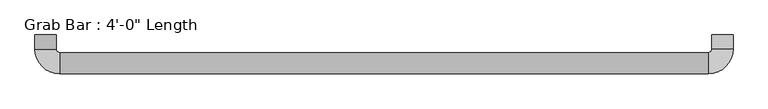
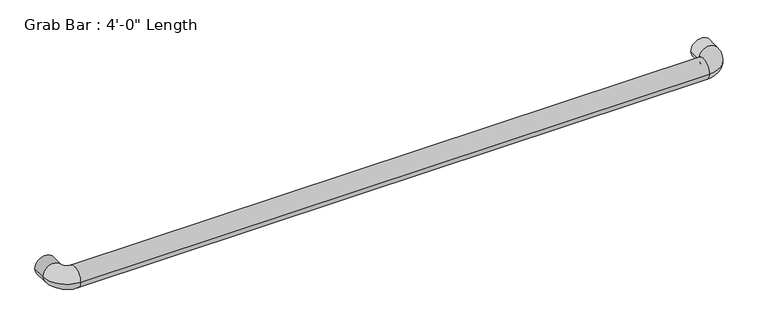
"""IFC4 building model written with IfcOpenShell, lengths in millimetres: proxy geometry."""

from ifc_helpers import new_model, si_unit, point, frame, origin, place, context, project, spatial, circle_curve, ellipse_curve, trimmed, source, transform, mapped, element, save
from ifc_brep_helpers import plane_surface, cylinder_surface, revolved_surface, advanced_brep


def proxy_3a9288d3(model_context):
    return source(origin(), model_context, "Body", "AdvancedBrep", [
        advanced_brep(
        [(-590.55, -176.2125, 914.4), (-628.65, -176.2125, 914.4), (-628.65, -201.6125, 914.4), (-590.55, -201.6125, 914.4), (-584.2, -246.0625, 914.4), (-584.2, -207.9625, 914.4), (584.2, -246.0625, 914.4), (584.2, -207.9625, 914.4), (628.65, -201.6125, 914.4), (590.55, -201.6125, 914.4), (590.55, -176.2125, 914.4), (628.65, -176.2125, 914.4)],
        [
            (0, 1, circle_curve(frame((-609.6, -176.2125, 914.4), z_axis=(0.0, 1.0, 0.0), x_axis=(-1.0, 0.0, 0.0)), 19.05)),
            (1, 0, circle_curve(frame((-609.6, -176.2125, 914.4), z_axis=(0.0, 1.0, 0.0), x_axis=(-1.0, 0.0, 0.0)), 19.05)),
            (1, 2),
            (2, 3, circle_curve(frame((-609.6, -201.6125, 914.4), z_axis=(0.0, 1.0, 0.0), x_axis=(-1.0, 0.0, 0.0)), 19.05)),
            (3, 0),
            (3, 2, circle_curve(frame((-609.6, -201.6125, 914.4), z_axis=(0.0, 1.0, 0.0), x_axis=(-1.0, 0.0, 0.0)), 19.05)),
            (4, 5, circle_curve(frame((-584.2, -227.0125, 914.4), z_axis=(-1.0, 0.0, 0.0), x_axis=(0.0, -1.0, 0.0)), 19.05)),
            (5, 3, circle_curve(frame((-584.2, -201.6125, 914.4), z_axis=(0.0, 0.0, -1.0), x_axis=(-1.0, 0.0, 0.0)), 6.35)),
            (2, 4, circle_curve(frame((-584.2, -201.6125, 914.4), z_axis=(0.0, 0.0, 1.0), x_axis=(-1.0, 0.0, 0.0)), 44.45)),
            (5, 4, circle_curve(frame((-584.2, -227.0125, 914.4), z_axis=(-1.0, 0.0, 0.0), x_axis=(0.0, -1.0, 0.0)), 19.05)),
            (4, 6),
            (6, 7, circle_curve(frame((584.2, -227.0125, 914.4), z_axis=(-1.0, 0.0, 0.0), x_axis=(0.0, -1.0, 0.0)), 19.05)),
            (7, 5),
            (7, 6, circle_curve(frame((584.2, -227.0125, 914.4), z_axis=(-1.0, 0.0, 0.0), x_axis=(0.0, -1.0, 0.0)), 19.05)),
            (8, 9, circle_curve(frame((609.6, -201.6125, 914.4), z_axis=(0.0, -1.0, 0.0), x_axis=(1.0, 0.0, 0.0)), 19.05)),
            (9, 7, circle_curve(frame((584.2, -201.6125, 914.4), z_axis=(0.0, 0.0, -1.0), x_axis=(0.0, -1.0, 0.0)), 6.35)),
            (6, 8, circle_curve(frame((584.2, -201.6125, 914.4), z_axis=(0.0, 0.0, 1.0), x_axis=(0.0, -1.0, 0.0)), 44.45)),
            (9, 8, circle_curve(frame((609.6, -201.6125, 914.4), z_axis=(0.0, -1.0, 0.0), x_axis=(1.0, 0.0, 0.0)), 19.05)),
            (10, 11, circle_curve(frame((609.6, -176.2125, 914.4), z_axis=(0.0, 1.0, 0.0), x_axis=(1.0, 0.0, 0.0)), 19.05)),
            (11, 10, circle_curve(frame((609.6, -176.2125, 914.4), z_axis=(0.0, 1.0, 0.0), x_axis=(1.0, 0.0, 0.0)), 19.05)),
            (8, 11),
            (10, 9),
        ],
        [
            plane_surface(frame((-609.6, -176.2125, 914.4), z_axis=(0.0, 1.0, 0.0), x_axis=(0.0, 0.0, 1.0))),
            cylinder_surface(frame((-609.6, -176.2125, 914.4), z_axis=(0.0, 1.0, 0.0), x_axis=(-1.0, 0.0, 0.0)), 19.05),
            revolved_surface(trimmed(ellipse_curve(frame((-609.6, -201.6125, 914.4), z_axis=(0.0, -1.0, 0.0), x_axis=(-1.0, 0.0, 0.0)), 19.05, 19.05), [point((-590.55, -201.6125, 914.4))], [point((-628.65, -201.6125, 914.4))], True, "CARTESIAN"), (-584.2, -201.6125, 914.4), (0.0, 0.0, -1.0)),
            revolved_surface(trimmed(ellipse_curve(frame((-609.6, -201.6125, 914.4), z_axis=(0.0, -1.0, 0.0), x_axis=(-1.0, 0.0, 0.0)), 19.05, 19.05), [point((-628.65, -201.6125, 914.4))], [point((-590.55, -201.6125, 914.4))], True, "CARTESIAN"), (-584.2, -201.6125, 914.4), (0.0, 0.0, -1.0)),
            cylinder_surface(frame((-584.2, -227.0125, 914.4), z_axis=(-1.0, 0.0, 0.0), x_axis=(0.0, -1.0, 0.0)), 19.05),
            revolved_surface(trimmed(ellipse_curve(frame((584.2, -227.0125, 914.4), z_axis=(1.0, 0.0, 0.0), x_axis=(0.0, -1.0, 0.0)), 19.05, 19.05), [point((584.2, -207.9625, 914.4))], [point((584.2, -246.0625, 914.4))], True, "CARTESIAN"), (584.2, -201.6125, 914.4), (0.0, 0.0, -1.0)),
            revolved_surface(trimmed(ellipse_curve(frame((584.2, -227.0125, 914.4), z_axis=(1.0, 0.0, 0.0), x_axis=(0.0, -1.0, 0.0)), 19.05, 19.05), [point((584.2, -246.0625, 914.4))], [point((584.2, -207.9625, 914.4))], True, "CARTESIAN"), (584.2, -201.6125, 914.4), (0.0, 0.0, -1.0)),
            plane_surface(frame((609.6, -176.2125, 914.4), z_axis=(0.0, 1.0, 0.0), x_axis=(0.0, 0.0, 1.0))),
            cylinder_surface(frame((609.6, -201.6125, 914.4), z_axis=(0.0, -1.0, 0.0), x_axis=(1.0, 0.0, 0.0)), 19.05),
        ],
        [
            (0, [[1, 2]]),
            (1, [[3, 4, 5, -2]]),
            (1, [[-5, 6, -3, -1]]),
            (2, [[7, 8, -4, 9]]),
            (3, [[10, -9, -6, -8]]),
            (4, [[11, 12, 13, -7]]),
            (4, [[-13, 14, -11, -10]]),
            (5, [[15, 16, -12, 17]]),
            (6, [[18, -17, -14, -16]]),
            (7, [[19, 20]]),
            (8, [[21, -19, 22, -15]]),
            (8, [[-22, -20, -21, -18]]),
        ],
    ),
    ])


if __name__ == "__main__":
    model = new_model("IFC4")
    model_context = context("Model", 3, world=origin())
    ifc_project = project(units=[si_unit("LENGTHUNIT", "METRE", prefix="MILLI")], contexts=[model_context])
    site = spatial("IfcSite", under=ifc_project)
    building = spatial("IfcBuilding", under=site)
    placement = place(None, origin())
    proxy_shape = proxy_3a9288d3(model_context)
    element("IfcBuildingElementProxy", 1, Name="Grab Bar : 4'-0\" Length", ObjectType="Grab Bar : 4'-0\" Length", at=placement, inside=building, context=model_context, shape_type="MappedRepresentation", body=[
        mapped(proxy_shape, transform((0.0, 0.0, 0.0), x_axis=(1.0, 0.0, 0.0), y_axis=(0.0, 1.0, 0.0), z_axis=(0.0, 0.0, 1.0))),
    ])
    save(model, "model.ifc")
